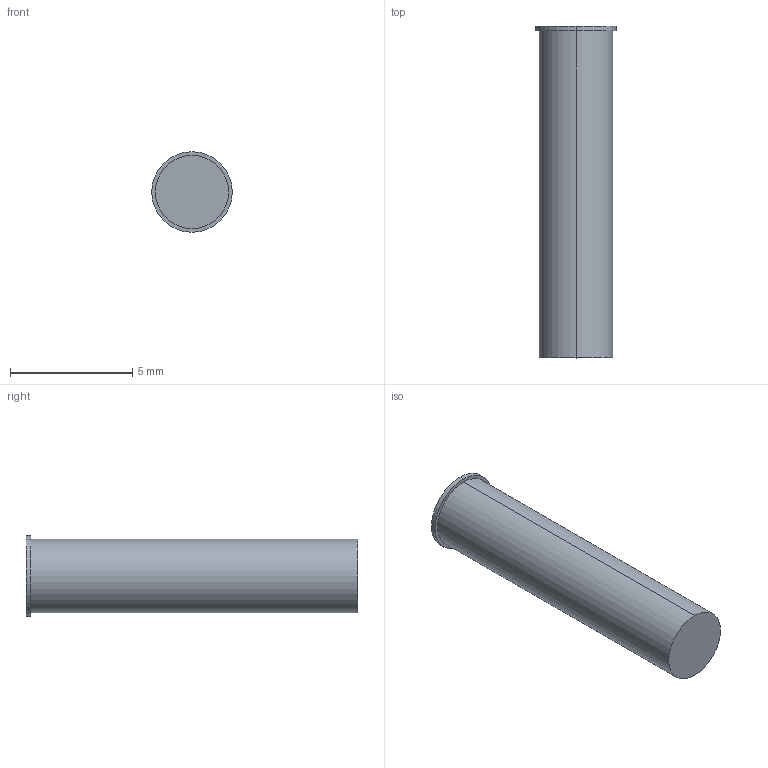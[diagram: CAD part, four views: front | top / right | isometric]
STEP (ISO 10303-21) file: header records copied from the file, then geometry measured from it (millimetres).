
FILE_DESCRIPTION (( 'STEP AP214' ), '1' );
FILE_NAME ('RC8S.STEP', '2021-07-13T10:13:05', ( '' ), ( '' ), 'SwSTEP 2.0', 'SolidWorks 2021', '' );
FILE_SCHEMA (( 'AUTOMOTIVE_DESIGN' ));
Length unit declared in the file: millimetre
Products named in the file (1): RC8S
Bounding box: 3.3 x 13.6 x 3.3 mm (x, y, z)
Volume: 96.4 mm3; surface area: 145.5 mm2
Topology: 1 solids, 1 shells, 7 faces, 12 edges, 8 vertices
Faces by surface type: cylinder 4, plane 3
Entity records: 208 total; most frequent: DIRECTION 36, CARTESIAN_POINT 28, ORIENTED_EDGE 24, AXIS2_PLACEMENT_3D 16, EDGE_CURVE 12, VERTEX_POINT 8, CIRCLE 8, EDGE_LOOP 8
